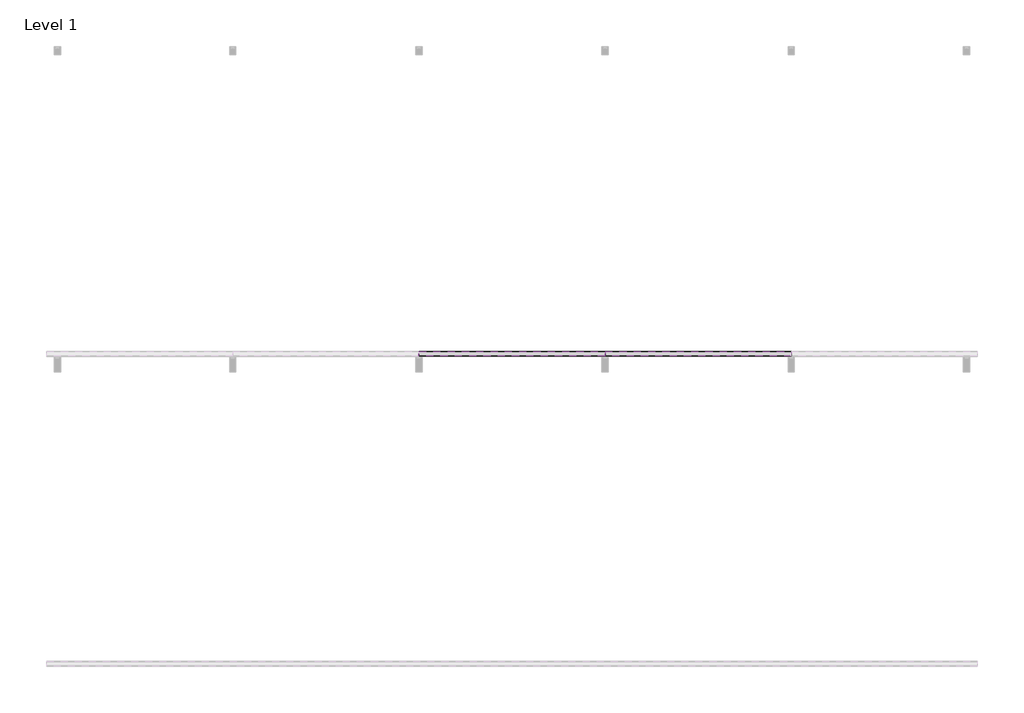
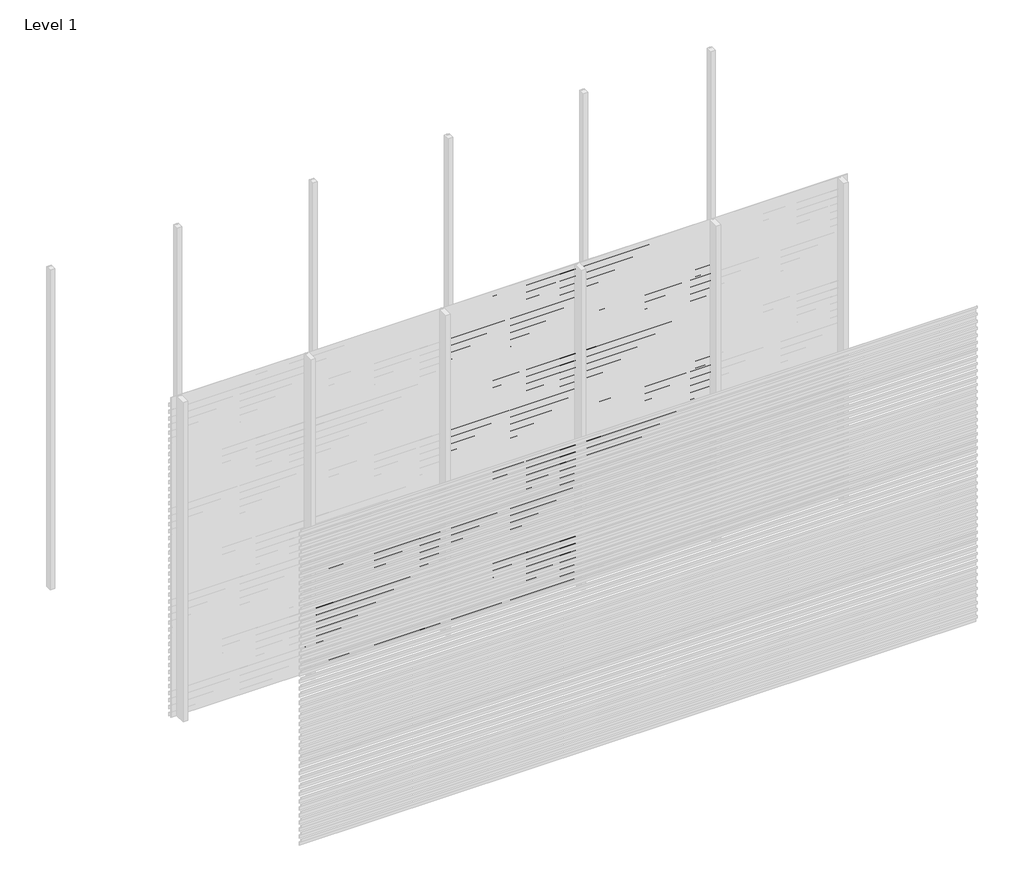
# One storey, part 14 of 33: 88 proxies.
"""IFC4 building model written with IfcOpenShell, lengths in millimetres."""

from ifc_helpers import new_model, si_unit, frame, origin, place, context, project, spatial, polyline, outline, extrude, element, save

model = new_model("IFC4")

# Units and contexts
model_context = context("Model", 3, world=origin())
ifc_project = project(units=[si_unit("LENGTHUNIT", "METRE", prefix="MILLI")], contexts=[model_context])

# Site, building, storey
site = spatial("IfcSite", under=ifc_project)
building = spatial("IfcBuilding", under=site)
storey = spatial("IfcBuildingStorey", under=building, Name="Level 1", Elevation=0.0)

# Proxies
placement = place(None, origin())
element("IfcBuildingElementProxy", 1, Name="Wall Sweeps", at=placement, inside=storey, context=model_context, shape_type="SweptSolid", body=[
    extrude(outline(polyline([(-35967.0, 950.0), (-35967.0, 917.0), (-35968.25, 917.7216933), (-35968.25, 949.2872415), (-35998.0, 970.0588647), (-35998.0, 990.0), (-35996.75, 990.0), (-35996.75, 970.7716232), (-35967.0, 950.0)])), frame((1200.0, 0.0, 0.0), z_axis=(1.0, 0.0, 0.0), x_axis=(0.0, 1.0, 0.0)), (0.0, 0.0, 1.0), 1200.0),
])
element("IfcBuildingElementProxy", 2, Name="Wall Sweeps", at=placement, inside=storey, context=model_context, shape_type="SweptSolid", body=[
    extrude(outline(polyline([(-35967.0, 884.0), (-35967.0, 851.0), (-35968.25, 851.7216933), (-35968.25, 883.2872415), (-35998.0, 904.0588647), (-35998.0, 924.0), (-35996.75, 924.0), (-35996.75, 904.7716232), (-35967.0, 884.0)])), frame((1200.0, 0.0, 0.0), z_axis=(1.0, 0.0, 0.0), x_axis=(0.0, 1.0, 0.0)), (0.0, 0.0, 1.0), 1200.0),
])
element("IfcBuildingElementProxy", 3, Name="Wall Sweeps", at=placement, inside=storey, context=model_context, shape_type="SweptSolid", body=[
    extrude(outline(polyline([(-35967.0, 818.0), (-35967.0, 785.0), (-35968.25, 785.7216933), (-35968.25, 817.2872415), (-35998.0, 838.0588647), (-35998.0, 858.0), (-35996.75, 858.0), (-35996.75, 838.7716232), (-35967.0, 818.0)])), frame((1200.0, 0.0, 0.0), z_axis=(1.0, 0.0, 0.0), x_axis=(0.0, 1.0, 0.0)), (0.0, 0.0, 1.0), 1200.0),
])
element("IfcBuildingElementProxy", 4, Name="Wall Sweeps", at=placement, inside=storey, context=model_context, shape_type="SweptSolid", body=[
    extrude(outline(polyline([(-35967.0, 752.0), (-35967.0, 719.0), (-35968.25, 719.7216933), (-35968.25, 751.2872415), (-35998.0, 772.0588647), (-35998.0, 792.0), (-35996.75, 792.0), (-35996.75, 772.7716232), (-35967.0, 752.0)])), frame((1200.0, 0.0, 0.0), z_axis=(1.0, 0.0, 0.0), x_axis=(0.0, 1.0, 0.0)), (0.0, 0.0, 1.0), 1200.0),
])
element("IfcBuildingElementProxy", 5, Name="Wall Sweeps", at=placement, inside=storey, context=model_context, shape_type="SweptSolid", body=[
    extrude(outline(polyline([(-35967.0, 686.0), (-35967.0, 653.0), (-35968.25, 653.7216933), (-35968.25, 685.2872415), (-35998.0, 706.0588647), (-35998.0, 726.0), (-35996.75, 726.0), (-35996.75, 706.7716232), (-35967.0, 686.0)])), frame((1200.0, 0.0, 0.0), z_axis=(1.0, 0.0, 0.0), x_axis=(0.0, 1.0, 0.0)), (0.0, 0.0, 1.0), 1200.0),
])
element("IfcBuildingElementProxy", 6, Name="Wall Sweeps", at=placement, inside=storey, context=model_context, shape_type="SweptSolid", body=[
    extrude(outline(polyline([(-35967.0, 620.0), (-35967.0, 587.0), (-35968.25, 587.7216933), (-35968.25, 619.2872415), (-35998.0, 640.0588647), (-35998.0, 660.0), (-35996.75, 660.0), (-35996.75, 640.7716232), (-35967.0, 620.0)])), frame((1200.0, 0.0, 0.0), z_axis=(1.0, 0.0, 0.0), x_axis=(0.0, 1.0, 0.0)), (0.0, 0.0, 1.0), 1200.0),
])
element("IfcBuildingElementProxy", 7, Name="Wall Sweeps", at=placement, inside=storey, context=model_context, shape_type="SweptSolid", body=[
    extrude(outline(polyline([(-35967.0, 554.0), (-35967.0, 521.0), (-35968.25, 521.7216933), (-35968.25, 553.2872415), (-35998.0, 574.0588647), (-35998.0, 594.0), (-35996.75, 594.0), (-35996.75, 574.7716232), (-35967.0, 554.0)])), frame((1200.0, 0.0, 0.0), z_axis=(1.0, 0.0, 0.0), x_axis=(0.0, 1.0, 0.0)), (0.0, 0.0, 1.0), 1200.0),
])
element("IfcBuildingElementProxy", 8, Name="Wall Sweeps", at=placement, inside=storey, context=model_context, shape_type="SweptSolid", body=[
    extrude(outline(polyline([(-35967.0, 488.0), (-35967.0, 455.0), (-35968.25, 455.7216933), (-35968.25, 487.2872415), (-35998.0, 508.0588647), (-35998.0, 528.0), (-35996.75, 528.0), (-35996.75, 508.7716232), (-35967.0, 488.0)])), frame((1200.0, 0.0, 0.0), z_axis=(1.0, 0.0, 0.0), x_axis=(0.0, 1.0, 0.0)), (0.0, 0.0, 1.0), 1200.0),
])
element("IfcBuildingElementProxy", 9, Name="Wall Sweeps", at=placement, inside=storey, context=model_context, shape_type="SweptSolid", body=[
    extrude(outline(polyline([(-35967.0, 422.0), (-35967.0, 389.0), (-35968.25, 389.7216933), (-35968.25, 421.2872415), (-35998.0, 442.0588647), (-35998.0, 462.0), (-35996.75, 462.0), (-35996.75, 442.7716232), (-35967.0, 422.0)])), frame((1200.0, 0.0, 0.0), z_axis=(1.0, 0.0, 0.0), x_axis=(0.0, 1.0, 0.0)), (0.0, 0.0, 1.0), 1200.0),
])
element("IfcBuildingElementProxy", 10, Name="Wall Sweeps", at=placement, inside=storey, context=model_context, shape_type="SweptSolid", body=[
    extrude(outline(polyline([(-35967.0, 356.0), (-35967.0, 323.0), (-35968.25, 323.7216933), (-35968.25, 355.2872415), (-35998.0, 376.0588647), (-35998.0, 396.0), (-35996.75, 396.0), (-35996.75, 376.7716232), (-35967.0, 356.0)])), frame((1200.0, 0.0, 0.0), z_axis=(1.0, 0.0, 0.0), x_axis=(0.0, 1.0, 0.0)), (0.0, 0.0, 1.0), 1200.0),
])
element("IfcBuildingElementProxy", 11, Name="Wall Sweeps", at=placement, inside=storey, context=model_context, shape_type="SweptSolid", body=[
    extrude(outline(polyline([(-35967.0, 290.0), (-35967.0, 257.0), (-35968.25, 257.7216933), (-35968.25, 289.2872415), (-35998.0, 310.0588647), (-35998.0, 330.0), (-35996.75, 330.0), (-35996.75, 310.7716232), (-35967.0, 290.0)])), frame((1200.0, 0.0, 0.0), z_axis=(1.0, 0.0, 0.0), x_axis=(0.0, 1.0, 0.0)), (0.0, 0.0, 1.0), 1200.0),
])
element("IfcBuildingElementProxy", 12, Name="Wall Sweeps", at=placement, inside=storey, context=model_context, shape_type="SweptSolid", body=[
    extrude(outline(polyline([(-35967.0, 224.0), (-35967.0, 191.0), (-35968.25, 191.7216933), (-35968.25, 223.2872415), (-35998.0, 244.0588647), (-35998.0, 264.0), (-35996.75, 264.0), (-35996.75, 244.7716232), (-35967.0, 224.0)])), frame((1200.0, 0.0, 0.0), z_axis=(1.0, 0.0, 0.0), x_axis=(0.0, 1.0, 0.0)), (0.0, 0.0, 1.0), 1200.0),
])
element("IfcBuildingElementProxy", 13, Name="Wall Sweeps", at=placement, inside=storey, context=model_context, shape_type="SweptSolid", body=[
    extrude(outline(polyline([(-35967.0, 158.0), (-35967.0, 125.0), (-35968.25, 125.7216933), (-35968.25, 157.2872415), (-35998.0, 178.0588647), (-35998.0, 198.0), (-35996.75, 198.0), (-35996.75, 178.7716232), (-35967.0, 158.0)])), frame((1200.0, 0.0, 0.0), z_axis=(1.0, 0.0, 0.0), x_axis=(0.0, 1.0, 0.0)), (0.0, 0.0, 1.0), 1200.0),
])
element("IfcBuildingElementProxy", 14, Name="Wall Sweeps", at=placement, inside=storey, context=model_context, shape_type="SweptSolid", body=[
    extrude(outline(polyline([(-35967.0, 92.0), (-35967.0, 59.0), (-35968.25, 59.7216933), (-35968.25, 91.2872415), (-35998.0, 112.0588647), (-35998.0, 132.0), (-35996.75, 132.0), (-35996.75, 112.7716232), (-35967.0, 92.0)])), frame((1200.0, 0.0, 0.0), z_axis=(1.0, 0.0, 0.0), x_axis=(0.0, 1.0, 0.0)), (0.0, 0.0, 1.0), 1200.0),
])
element("IfcBuildingElementProxy", 15, Name="Wall Sweeps", at=placement, inside=storey, context=model_context, shape_type="SweptSolid", body=[
    extrude(outline(polyline([(-35967.0, 26.0), (-35967.0, -7.0), (-35968.25, -6.2783067), (-35968.25, 25.2872415), (-35998.0, 46.0588647), (-35998.0, 66.0), (-35996.75, 66.0), (-35996.75, 46.7716232), (-35967.0, 26.0)])), frame((1200.0, 0.0, 0.0), z_axis=(1.0, 0.0, 0.0), x_axis=(0.0, 1.0, 0.0)), (0.0, 0.0, 1.0), 1200.0),
])
element("IfcBuildingElementProxy", 16, Name="Wall Sweeps", at=placement, inside=storey, context=model_context, shape_type="SweptSolid", body=[
    extrude(outline(polyline([(-35967.0, 2930.0), (-35967.0, 2897.0), (-35968.25, 2897.7216933), (-35968.25, 2929.2872415), (-35998.0, 2950.0588647), (-35998.0, 2970.0), (-35996.75, 2970.0), (-35996.75, 2950.7716232), (-35967.0, 2930.0)])), frame((2400.0, 0.0, 0.0), z_axis=(1.0, 0.0, 0.0), x_axis=(0.0, 1.0, 0.0)), (0.0, 0.0, 1.0), 1200.0),
])
element("IfcBuildingElementProxy", 17, Name="Wall Sweeps", at=placement, inside=storey, context=model_context, shape_type="SweptSolid", body=[
    extrude(outline(polyline([(-35967.0, 2864.0), (-35967.0, 2831.0), (-35968.25, 2831.7216933), (-35968.25, 2863.2872415), (-35998.0, 2884.0588647), (-35998.0, 2904.0), (-35996.75, 2904.0), (-35996.75, 2884.7716232), (-35967.0, 2864.0)])), frame((2400.0, 0.0, 0.0), z_axis=(1.0, 0.0, 0.0), x_axis=(0.0, 1.0, 0.0)), (0.0, 0.0, 1.0), 1200.0),
])
element("IfcBuildingElementProxy", 18, Name="Wall Sweeps", at=placement, inside=storey, context=model_context, shape_type="SweptSolid", body=[
    extrude(outline(polyline([(-35967.0, 2798.0), (-35967.0, 2765.0), (-35968.25, 2765.7216933), (-35968.25, 2797.2872415), (-35998.0, 2818.0588647), (-35998.0, 2838.0), (-35996.75, 2838.0), (-35996.75, 2818.7716232), (-35967.0, 2798.0)])), frame((2400.0, 0.0, 0.0), z_axis=(1.0, 0.0, 0.0), x_axis=(0.0, 1.0, 0.0)), (0.0, 0.0, 1.0), 1200.0),
])
element("IfcBuildingElementProxy", 19, Name="Wall Sweeps", at=placement, inside=storey, context=model_context, shape_type="SweptSolid", body=[
    extrude(outline(polyline([(-35967.0, 2732.0), (-35967.0, 2699.0), (-35968.25, 2699.7216933), (-35968.25, 2731.2872415), (-35998.0, 2752.0588647), (-35998.0, 2772.0), (-35996.75, 2772.0), (-35996.75, 2752.7716232), (-35967.0, 2732.0)])), frame((2400.0, 0.0, 0.0), z_axis=(1.0, 0.0, 0.0), x_axis=(0.0, 1.0, 0.0)), (0.0, 0.0, 1.0), 1200.0),
])
element("IfcBuildingElementProxy", 20, Name="Wall Sweeps", at=placement, inside=storey, context=model_context, shape_type="SweptSolid", body=[
    extrude(outline(polyline([(-35967.0, 2666.0), (-35967.0, 2633.0), (-35968.25, 2633.7216933), (-35968.25, 2665.2872415), (-35998.0, 2686.0588647), (-35998.0, 2706.0), (-35996.75, 2706.0), (-35996.75, 2686.7716232), (-35967.0, 2666.0)])), frame((2400.0, 0.0, 0.0), z_axis=(1.0, 0.0, 0.0), x_axis=(0.0, 1.0, 0.0)), (0.0, 0.0, 1.0), 1200.0),
])
element("IfcBuildingElementProxy", 21, Name="Wall Sweeps", at=placement, inside=storey, context=model_context, shape_type="SweptSolid", body=[
    extrude(outline(polyline([(-35967.0, 2600.0), (-35967.0, 2567.0), (-35968.25, 2567.7216933), (-35968.25, 2599.2872415), (-35998.0, 2620.0588647), (-35998.0, 2640.0), (-35996.75, 2640.0), (-35996.75, 2620.7716232), (-35967.0, 2600.0)])), frame((2400.0, 0.0, 0.0), z_axis=(1.0, 0.0, 0.0), x_axis=(0.0, 1.0, 0.0)), (0.0, 0.0, 1.0), 1200.0),
])
element("IfcBuildingElementProxy", 22, Name="Wall Sweeps", at=placement, inside=storey, context=model_context, shape_type="SweptSolid", body=[
    extrude(outline(polyline([(-35967.0, 2534.0), (-35967.0, 2501.0), (-35968.25, 2501.7216933), (-35968.25, 2533.2872415), (-35998.0, 2554.0588647), (-35998.0, 2574.0), (-35996.75, 2574.0), (-35996.75, 2554.7716232), (-35967.0, 2534.0)])), frame((2400.0, 0.0, 0.0), z_axis=(1.0, 0.0, 0.0), x_axis=(0.0, 1.0, 0.0)), (0.0, 0.0, 1.0), 1200.0),
])
element("IfcBuildingElementProxy", 23, Name="Wall Sweeps", at=placement, inside=storey, context=model_context, shape_type="SweptSolid", body=[
    extrude(outline(polyline([(-35967.0, 2468.0), (-35967.0, 2435.0), (-35968.25, 2435.7216933), (-35968.25, 2467.2872415), (-35998.0, 2488.0588647), (-35998.0, 2508.0), (-35996.75, 2508.0), (-35996.75, 2488.7716232), (-35967.0, 2468.0)])), frame((2400.0, 0.0, 0.0), z_axis=(1.0, 0.0, 0.0), x_axis=(0.0, 1.0, 0.0)), (0.0, 0.0, 1.0), 1200.0),
])
element("IfcBuildingElementProxy", 24, Name="Wall Sweeps", at=placement, inside=storey, context=model_context, shape_type="SweptSolid", body=[
    extrude(outline(polyline([(-35967.0, 2402.0), (-35967.0, 2369.0), (-35968.25, 2369.7216933), (-35968.25, 2401.2872415), (-35998.0, 2422.0588647), (-35998.0, 2442.0), (-35996.75, 2442.0), (-35996.75, 2422.7716232), (-35967.0, 2402.0)])), frame((2400.0, 0.0, 0.0), z_axis=(1.0, 0.0, 0.0), x_axis=(0.0, 1.0, 0.0)), (0.0, 0.0, 1.0), 1200.0),
])
element("IfcBuildingElementProxy", 25, Name="Wall Sweeps", at=placement, inside=storey, context=model_context, shape_type="SweptSolid", body=[
    extrude(outline(polyline([(-35967.0, 2336.0), (-35967.0, 2303.0), (-35968.25, 2303.7216933), (-35968.25, 2335.2872415), (-35998.0, 2356.0588647), (-35998.0, 2376.0), (-35996.75, 2376.0), (-35996.75, 2356.7716232), (-35967.0, 2336.0)])), frame((2400.0, 0.0, 0.0), z_axis=(1.0, 0.0, 0.0), x_axis=(0.0, 1.0, 0.0)), (0.0, 0.0, 1.0), 1200.0),
])
element("IfcBuildingElementProxy", 26, Name="Wall Sweeps", at=placement, inside=storey, context=model_context, shape_type="SweptSolid", body=[
    extrude(outline(polyline([(-35967.0, 2270.0), (-35967.0, 2237.0), (-35968.25, 2237.7216933), (-35968.25, 2269.2872415), (-35998.0, 2290.0588647), (-35998.0, 2310.0), (-35996.75, 2310.0), (-35996.75, 2290.7716232), (-35967.0, 2270.0)])), frame((2400.0, 0.0, 0.0), z_axis=(1.0, 0.0, 0.0), x_axis=(0.0, 1.0, 0.0)), (0.0, 0.0, 1.0), 1200.0),
])
element("IfcBuildingElementProxy", 27, Name="Wall Sweeps", at=placement, inside=storey, context=model_context, shape_type="SweptSolid", body=[
    extrude(outline(polyline([(-35967.0, 2204.0), (-35967.0, 2171.0), (-35968.25, 2171.7216933), (-35968.25, 2203.2872415), (-35998.0, 2224.0588647), (-35998.0, 2244.0), (-35996.75, 2244.0), (-35996.75, 2224.7716232), (-35967.0, 2204.0)])), frame((2400.0, 0.0, 0.0), z_axis=(1.0, 0.0, 0.0), x_axis=(0.0, 1.0, 0.0)), (0.0, 0.0, 1.0), 1200.0),
])
element("IfcBuildingElementProxy", 28, Name="Wall Sweeps", at=placement, inside=storey, context=model_context, shape_type="SweptSolid", body=[
    extrude(outline(polyline([(-35967.0, 2138.0), (-35967.0, 2105.0), (-35968.25, 2105.7216933), (-35968.25, 2137.2872415), (-35998.0, 2158.0588647), (-35998.0, 2178.0), (-35996.75, 2178.0), (-35996.75, 2158.7716232), (-35967.0, 2138.0)])), frame((2400.0, 0.0, 0.0), z_axis=(1.0, 0.0, 0.0), x_axis=(0.0, 1.0, 0.0)), (0.0, 0.0, 1.0), 1200.0),
])
element("IfcBuildingElementProxy", 29, Name="Wall Sweeps", at=placement, inside=storey, context=model_context, shape_type="SweptSolid", body=[
    extrude(outline(polyline([(-35967.0, 2072.0), (-35967.0, 2039.0), (-35968.25, 2039.7216933), (-35968.25, 2071.2872415), (-35998.0, 2092.0588647), (-35998.0, 2112.0), (-35996.75, 2112.0), (-35996.75, 2092.7716232), (-35967.0, 2072.0)])), frame((2400.0, 0.0, 0.0), z_axis=(1.0, 0.0, 0.0), x_axis=(0.0, 1.0, 0.0)), (0.0, 0.0, 1.0), 1200.0),
])
element("IfcBuildingElementProxy", 30, Name="Wall Sweeps", at=placement, inside=storey, context=model_context, shape_type="SweptSolid", body=[
    extrude(outline(polyline([(-35967.0, 2006.0), (-35967.0, 1973.0), (-35968.25, 1973.7216933), (-35968.25, 2005.2872415), (-35998.0, 2026.0588647), (-35998.0, 2046.0), (-35996.75, 2046.0), (-35996.75, 2026.7716232), (-35967.0, 2006.0)])), frame((2400.0, 0.0, 0.0), z_axis=(1.0, 0.0, 0.0), x_axis=(0.0, 1.0, 0.0)), (0.0, 0.0, 1.0), 1200.0),
])
element("IfcBuildingElementProxy", 31, Name="Wall Sweeps", at=placement, inside=storey, context=model_context, shape_type="SweptSolid", body=[
    extrude(outline(polyline([(-35967.0, 1940.0), (-35967.0, 1907.0), (-35968.25, 1907.7216933), (-35968.25, 1939.2872415), (-35998.0, 1960.0588647), (-35998.0, 1980.0), (-35996.75, 1980.0), (-35996.75, 1960.7716232), (-35967.0, 1940.0)])), frame((2400.0, 0.0, 0.0), z_axis=(1.0, 0.0, 0.0), x_axis=(0.0, 1.0, 0.0)), (0.0, 0.0, 1.0), 1200.0),
])
element("IfcBuildingElementProxy", 32, Name="Wall Sweeps", at=placement, inside=storey, context=model_context, shape_type="SweptSolid", body=[
    extrude(outline(polyline([(-35967.0, 1874.0), (-35967.0, 1841.0), (-35968.25, 1841.7216933), (-35968.25, 1873.2872415), (-35998.0, 1894.0588647), (-35998.0, 1914.0), (-35996.75, 1914.0), (-35996.75, 1894.7716232), (-35967.0, 1874.0)])), frame((2400.0, 0.0, 0.0), z_axis=(1.0, 0.0, 0.0), x_axis=(0.0, 1.0, 0.0)), (0.0, 0.0, 1.0), 1200.0),
])
element("IfcBuildingElementProxy", 33, Name="Wall Sweeps", at=placement, inside=storey, context=model_context, shape_type="SweptSolid", body=[
    extrude(outline(polyline([(-35967.0, 1808.0), (-35967.0, 1775.0), (-35968.25, 1775.7216933), (-35968.25, 1807.2872415), (-35998.0, 1828.0588647), (-35998.0, 1848.0), (-35996.75, 1848.0), (-35996.75, 1828.7716232), (-35967.0, 1808.0)])), frame((2400.0, 0.0, 0.0), z_axis=(1.0, 0.0, 0.0), x_axis=(0.0, 1.0, 0.0)), (0.0, 0.0, 1.0), 1200.0),
])
element("IfcBuildingElementProxy", 34, Name="Wall Sweeps", at=placement, inside=storey, context=model_context, shape_type="SweptSolid", body=[
    extrude(outline(polyline([(-35967.0, 1742.0), (-35967.0, 1709.0), (-35968.25, 1709.7216933), (-35968.25, 1741.2872415), (-35998.0, 1762.0588647), (-35998.0, 1782.0), (-35996.75, 1782.0), (-35996.75, 1762.7716232), (-35967.0, 1742.0)])), frame((2400.0, 0.0, 0.0), z_axis=(1.0, 0.0, 0.0), x_axis=(0.0, 1.0, 0.0)), (0.0, 0.0, 1.0), 1200.0),
])
element("IfcBuildingElementProxy", 35, Name="Wall Sweeps", at=placement, inside=storey, context=model_context, shape_type="SweptSolid", body=[
    extrude(outline(polyline([(-35967.0, 1676.0), (-35967.0, 1643.0), (-35968.25, 1643.7216933), (-35968.25, 1675.2872415), (-35998.0, 1696.0588647), (-35998.0, 1716.0), (-35996.75, 1716.0), (-35996.75, 1696.7716232), (-35967.0, 1676.0)])), frame((2400.0, 0.0, 0.0), z_axis=(1.0, 0.0, 0.0), x_axis=(0.0, 1.0, 0.0)), (0.0, 0.0, 1.0), 1200.0),
])
element("IfcBuildingElementProxy", 36, Name="Wall Sweeps", at=placement, inside=storey, context=model_context, shape_type="SweptSolid", body=[
    extrude(outline(polyline([(-35967.0, 1610.0), (-35967.0, 1577.0), (-35968.25, 1577.7216933), (-35968.25, 1609.2872415), (-35998.0, 1630.0588647), (-35998.0, 1650.0), (-35996.75, 1650.0), (-35996.75, 1630.7716232), (-35967.0, 1610.0)])), frame((2400.0, 0.0, 0.0), z_axis=(1.0, 0.0, 0.0), x_axis=(0.0, 1.0, 0.0)), (0.0, 0.0, 1.0), 1200.0),
])
element("IfcBuildingElementProxy", 37, Name="Wall Sweeps", at=placement, inside=storey, context=model_context, shape_type="SweptSolid", body=[
    extrude(outline(polyline([(-35967.0, 1544.0), (-35967.0, 1511.0), (-35968.25, 1511.7216933), (-35968.25, 1543.2872415), (-35998.0, 1564.0588647), (-35998.0, 1584.0), (-35996.75, 1584.0), (-35996.75, 1564.7716232), (-35967.0, 1544.0)])), frame((2400.0, 0.0, 0.0), z_axis=(1.0, 0.0, 0.0), x_axis=(0.0, 1.0, 0.0)), (0.0, 0.0, 1.0), 1200.0),
])
element("IfcBuildingElementProxy", 38, Name="Wall Sweeps", at=placement, inside=storey, context=model_context, shape_type="SweptSolid", body=[
    extrude(outline(polyline([(-35967.0, 1478.0), (-35967.0, 1445.0), (-35968.25, 1445.7216933), (-35968.25, 1477.2872415), (-35998.0, 1498.0588647), (-35998.0, 1518.0), (-35996.75, 1518.0), (-35996.75, 1498.7716232), (-35967.0, 1478.0)])), frame((2400.0, 0.0, 0.0), z_axis=(1.0, 0.0, 0.0), x_axis=(0.0, 1.0, 0.0)), (0.0, 0.0, 1.0), 1200.0),
])
element("IfcBuildingElementProxy", 39, Name="Wall Sweeps", at=placement, inside=storey, context=model_context, shape_type="SweptSolid", body=[
    extrude(outline(polyline([(-35967.0, 1412.0), (-35967.0, 1379.0), (-35968.25, 1379.7216933), (-35968.25, 1411.2872415), (-35998.0, 1432.0588647), (-35998.0, 1452.0), (-35996.75, 1452.0), (-35996.75, 1432.7716232), (-35967.0, 1412.0)])), frame((2400.0, 0.0, 0.0), z_axis=(1.0, 0.0, 0.0), x_axis=(0.0, 1.0, 0.0)), (0.0, 0.0, 1.0), 1200.0),
])
element("IfcBuildingElementProxy", 40, Name="Wall Sweeps", at=placement, inside=storey, context=model_context, shape_type="SweptSolid", body=[
    extrude(outline(polyline([(-35967.0, 1346.0), (-35967.0, 1313.0), (-35968.25, 1313.7216933), (-35968.25, 1345.2872415), (-35998.0, 1366.0588647), (-35998.0, 1386.0), (-35996.75, 1386.0), (-35996.75, 1366.7716232), (-35967.0, 1346.0)])), frame((2400.0, 0.0, 0.0), z_axis=(1.0, 0.0, 0.0), x_axis=(0.0, 1.0, 0.0)), (0.0, 0.0, 1.0), 1200.0),
])
element("IfcBuildingElementProxy", 41, Name="Wall Sweeps", at=placement, inside=storey, context=model_context, shape_type="SweptSolid", body=[
    extrude(outline(polyline([(-35967.0, 1280.0), (-35967.0, 1247.0), (-35968.25, 1247.7216933), (-35968.25, 1279.2872415), (-35998.0, 1300.0588647), (-35998.0, 1320.0), (-35996.75, 1320.0), (-35996.75, 1300.7716232), (-35967.0, 1280.0)])), frame((2400.0, 0.0, 0.0), z_axis=(1.0, 0.0, 0.0), x_axis=(0.0, 1.0, 0.0)), (0.0, 0.0, 1.0), 1200.0),
])
element("IfcBuildingElementProxy", 42, Name="Wall Sweeps", at=placement, inside=storey, context=model_context, shape_type="SweptSolid", body=[
    extrude(outline(polyline([(-35967.0, 1214.0), (-35967.0, 1181.0), (-35968.25, 1181.7216933), (-35968.25, 1213.2872415), (-35998.0, 1234.0588647), (-35998.0, 1254.0), (-35996.75, 1254.0), (-35996.75, 1234.7716232), (-35967.0, 1214.0)])), frame((2400.0, 0.0, 0.0), z_axis=(1.0, 0.0, 0.0), x_axis=(0.0, 1.0, 0.0)), (0.0, 0.0, 1.0), 1200.0),
])
element("IfcBuildingElementProxy", 43, Name="Wall Sweeps", at=placement, inside=storey, context=model_context, shape_type="SweptSolid", body=[
    extrude(outline(polyline([(-35967.0, 1148.0), (-35967.0, 1115.0), (-35968.25, 1115.7216933), (-35968.25, 1147.2872415), (-35998.0, 1168.0588647), (-35998.0, 1188.0), (-35996.75, 1188.0), (-35996.75, 1168.7716232), (-35967.0, 1148.0)])), frame((2400.0, 0.0, 0.0), z_axis=(1.0, 0.0, 0.0), x_axis=(0.0, 1.0, 0.0)), (0.0, 0.0, 1.0), 1200.0),
])
element("IfcBuildingElementProxy", 44, Name="Wall Sweeps", at=placement, inside=storey, context=model_context, shape_type="SweptSolid", body=[
    extrude(outline(polyline([(-35967.0, 1082.0), (-35967.0, 1049.0), (-35968.25, 1049.7216933), (-35968.25, 1081.2872415), (-35998.0, 1102.0588647), (-35998.0, 1122.0), (-35996.75, 1122.0), (-35996.75, 1102.7716232), (-35967.0, 1082.0)])), frame((2400.0, 0.0, 0.0), z_axis=(1.0, 0.0, 0.0), x_axis=(0.0, 1.0, 0.0)), (0.0, 0.0, 1.0), 1200.0),
])
element("IfcBuildingElementProxy", 45, Name="Wall Sweeps", at=placement, inside=storey, context=model_context, shape_type="SweptSolid", body=[
    extrude(outline(polyline([(-35967.0, 1016.0), (-35967.0, 983.0), (-35968.25, 983.7216933), (-35968.25, 1015.2872415), (-35998.0, 1036.0588647), (-35998.0, 1056.0), (-35996.75, 1056.0), (-35996.75, 1036.7716232), (-35967.0, 1016.0)])), frame((2400.0, 0.0, 0.0), z_axis=(1.0, 0.0, 0.0), x_axis=(0.0, 1.0, 0.0)), (0.0, 0.0, 1.0), 1200.0),
])
element("IfcBuildingElementProxy", 46, Name="Wall Sweeps", at=placement, inside=storey, context=model_context, shape_type="SweptSolid", body=[
    extrude(outline(polyline([(-35967.0, 950.0), (-35967.0, 917.0), (-35968.25, 917.7216933), (-35968.25, 949.2872415), (-35998.0, 970.0588647), (-35998.0, 990.0), (-35996.75, 990.0), (-35996.75, 970.7716232), (-35967.0, 950.0)])), frame((2400.0, 0.0, 0.0), z_axis=(1.0, 0.0, 0.0), x_axis=(0.0, 1.0, 0.0)), (0.0, 0.0, 1.0), 1200.0),
])
element("IfcBuildingElementProxy", 47, Name="Wall Sweeps", at=placement, inside=storey, context=model_context, shape_type="SweptSolid", body=[
    extrude(outline(polyline([(-35967.0, 884.0), (-35967.0, 851.0), (-35968.25, 851.7216933), (-35968.25, 883.2872415), (-35998.0, 904.0588647), (-35998.0, 924.0), (-35996.75, 924.0), (-35996.75, 904.7716232), (-35967.0, 884.0)])), frame((2400.0, 0.0, 0.0), z_axis=(1.0, 0.0, 0.0), x_axis=(0.0, 1.0, 0.0)), (0.0, 0.0, 1.0), 1200.0),
])
element("IfcBuildingElementProxy", 48, Name="Wall Sweeps", at=placement, inside=storey, context=model_context, shape_type="SweptSolid", body=[
    extrude(outline(polyline([(-35967.0, 818.0), (-35967.0, 785.0), (-35968.25, 785.7216933), (-35968.25, 817.2872415), (-35998.0, 838.0588647), (-35998.0, 858.0), (-35996.75, 858.0), (-35996.75, 838.7716232), (-35967.0, 818.0)])), frame((2400.0, 0.0, 0.0), z_axis=(1.0, 0.0, 0.0), x_axis=(0.0, 1.0, 0.0)), (0.0, 0.0, 1.0), 1200.0),
])
element("IfcBuildingElementProxy", 49, Name="Wall Sweeps", at=placement, inside=storey, context=model_context, shape_type="SweptSolid", body=[
    extrude(outline(polyline([(-35967.0, 752.0), (-35967.0, 719.0), (-35968.25, 719.7216933), (-35968.25, 751.2872415), (-35998.0, 772.0588647), (-35998.0, 792.0), (-35996.75, 792.0), (-35996.75, 772.7716232), (-35967.0, 752.0)])), frame((2400.0, 0.0, 0.0), z_axis=(1.0, 0.0, 0.0), x_axis=(0.0, 1.0, 0.0)), (0.0, 0.0, 1.0), 1200.0),
])
element("IfcBuildingElementProxy", 50, Name="Wall Sweeps", at=placement, inside=storey, context=model_context, shape_type="SweptSolid", body=[
    extrude(outline(polyline([(-35967.0, 686.0), (-35967.0, 653.0), (-35968.25, 653.7216933), (-35968.25, 685.2872415), (-35998.0, 706.0588647), (-35998.0, 726.0), (-35996.75, 726.0), (-35996.75, 706.7716232), (-35967.0, 686.0)])), frame((2400.0, 0.0, 0.0), z_axis=(1.0, 0.0, 0.0), x_axis=(0.0, 1.0, 0.0)), (0.0, 0.0, 1.0), 1200.0),
])
element("IfcBuildingElementProxy", 51, Name="Wall Sweeps", at=placement, inside=storey, context=model_context, shape_type="SweptSolid", body=[
    extrude(outline(polyline([(-35967.0, 620.0), (-35967.0, 587.0), (-35968.25, 587.7216933), (-35968.25, 619.2872415), (-35998.0, 640.0588647), (-35998.0, 660.0), (-35996.75, 660.0), (-35996.75, 640.7716232), (-35967.0, 620.0)])), frame((2400.0, 0.0, 0.0), z_axis=(1.0, 0.0, 0.0), x_axis=(0.0, 1.0, 0.0)), (0.0, 0.0, 1.0), 1200.0),
])
element("IfcBuildingElementProxy", 52, Name="Wall Sweeps", at=placement, inside=storey, context=model_context, shape_type="SweptSolid", body=[
    extrude(outline(polyline([(-35967.0, 554.0), (-35967.0, 521.0), (-35968.25, 521.7216933), (-35968.25, 553.2872415), (-35998.0, 574.0588647), (-35998.0, 594.0), (-35996.75, 594.0), (-35996.75, 574.7716232), (-35967.0, 554.0)])), frame((2400.0, 0.0, 0.0), z_axis=(1.0, 0.0, 0.0), x_axis=(0.0, 1.0, 0.0)), (0.0, 0.0, 1.0), 1200.0),
])
element("IfcBuildingElementProxy", 53, Name="Wall Sweeps", at=placement, inside=storey, context=model_context, shape_type="SweptSolid", body=[
    extrude(outline(polyline([(-35967.0, 488.0), (-35967.0, 455.0), (-35968.25, 455.7216933), (-35968.25, 487.2872415), (-35998.0, 508.0588647), (-35998.0, 528.0), (-35996.75, 528.0), (-35996.75, 508.7716232), (-35967.0, 488.0)])), frame((2400.0, 0.0, 0.0), z_axis=(1.0, 0.0, 0.0), x_axis=(0.0, 1.0, 0.0)), (0.0, 0.0, 1.0), 1200.0),
])
element("IfcBuildingElementProxy", 54, Name="Wall Sweeps", at=placement, inside=storey, context=model_context, shape_type="SweptSolid", body=[
    extrude(outline(polyline([(-35967.0, 422.0), (-35967.0, 389.0), (-35968.25, 389.7216933), (-35968.25, 421.2872415), (-35998.0, 442.0588647), (-35998.0, 462.0), (-35996.75, 462.0), (-35996.75, 442.7716232), (-35967.0, 422.0)])), frame((2400.0, 0.0, 0.0), z_axis=(1.0, 0.0, 0.0), x_axis=(0.0, 1.0, 0.0)), (0.0, 0.0, 1.0), 1200.0),
])
element("IfcBuildingElementProxy", 55, Name="Wall Sweeps", at=placement, inside=storey, context=model_context, shape_type="SweptSolid", body=[
    extrude(outline(polyline([(-35967.0, 356.0), (-35967.0, 323.0), (-35968.25, 323.7216933), (-35968.25, 355.2872415), (-35998.0, 376.0588647), (-35998.0, 396.0), (-35996.75, 396.0), (-35996.75, 376.7716232), (-35967.0, 356.0)])), frame((2400.0, 0.0, 0.0), z_axis=(1.0, 0.0, 0.0), x_axis=(0.0, 1.0, 0.0)), (0.0, 0.0, 1.0), 1200.0),
])
element("IfcBuildingElementProxy", 56, Name="Wall Sweeps", at=placement, inside=storey, context=model_context, shape_type="SweptSolid", body=[
    extrude(outline(polyline([(-35967.0, 290.0), (-35967.0, 257.0), (-35968.25, 257.7216933), (-35968.25, 289.2872415), (-35998.0, 310.0588647), (-35998.0, 330.0), (-35996.75, 330.0), (-35996.75, 310.7716232), (-35967.0, 290.0)])), frame((2400.0, 0.0, 0.0), z_axis=(1.0, 0.0, 0.0), x_axis=(0.0, 1.0, 0.0)), (0.0, 0.0, 1.0), 1200.0),
])
element("IfcBuildingElementProxy", 57, Name="Wall Sweeps", at=placement, inside=storey, context=model_context, shape_type="SweptSolid", body=[
    extrude(outline(polyline([(-35967.0, 224.0), (-35967.0, 191.0), (-35968.25, 191.7216933), (-35968.25, 223.2872415), (-35998.0, 244.0588647), (-35998.0, 264.0), (-35996.75, 264.0), (-35996.75, 244.7716232), (-35967.0, 224.0)])), frame((2400.0, 0.0, 0.0), z_axis=(1.0, 0.0, 0.0), x_axis=(0.0, 1.0, 0.0)), (0.0, 0.0, 1.0), 1200.0),
])
element("IfcBuildingElementProxy", 58, Name="Wall Sweeps", at=placement, inside=storey, context=model_context, shape_type="SweptSolid", body=[
    extrude(outline(polyline([(-35967.0, 158.0), (-35967.0, 125.0), (-35968.25, 125.7216933), (-35968.25, 157.2872415), (-35998.0, 178.0588647), (-35998.0, 198.0), (-35996.75, 198.0), (-35996.75, 178.7716232), (-35967.0, 158.0)])), frame((2400.0, 0.0, 0.0), z_axis=(1.0, 0.0, 0.0), x_axis=(0.0, 1.0, 0.0)), (0.0, 0.0, 1.0), 1200.0),
])
element("IfcBuildingElementProxy", 59, Name="Wall Sweeps", at=placement, inside=storey, context=model_context, shape_type="SweptSolid", body=[
    extrude(outline(polyline([(-35967.0, 92.0), (-35967.0, 59.0), (-35968.25, 59.7216933), (-35968.25, 91.2872415), (-35998.0, 112.0588647), (-35998.0, 132.0), (-35996.75, 132.0), (-35996.75, 112.7716232), (-35967.0, 92.0)])), frame((2400.0, 0.0, 0.0), z_axis=(1.0, 0.0, 0.0), x_axis=(0.0, 1.0, 0.0)), (0.0, 0.0, 1.0), 1200.0),
])
element("IfcBuildingElementProxy", 60, Name="Wall Sweeps", at=placement, inside=storey, context=model_context, shape_type="SweptSolid", body=[
    extrude(outline(polyline([(-35967.0, 26.0), (-35967.0, -7.0), (-35968.25, -6.2783067), (-35968.25, 25.2872415), (-35998.0, 46.0588647), (-35998.0, 66.0), (-35996.75, 66.0), (-35996.75, 46.7716232), (-35967.0, 26.0)])), frame((2400.0, 0.0, 0.0), z_axis=(1.0, 0.0, 0.0), x_axis=(0.0, 1.0, 0.0)), (0.0, 0.0, 1.0), 1200.0),
])
element("IfcBuildingElementProxy", 61, Name="Wall Sweeps", at=placement, inside=storey, context=model_context, shape_type="SweptSolid", body=[
    extrude(outline(polyline([(-35967.0, 2930.0), (-35967.0, 2897.0), (-35968.25, 2897.7216933), (-35968.25, 2929.2872415), (-35998.0, 2950.0588647), (-35998.0, 2970.0), (-35996.75, 2970.0), (-35996.75, 2950.7716232), (-35967.0, 2930.0)])), frame((3600.0, 0.0, 0.0), z_axis=(1.0, 0.0, 0.0), x_axis=(0.0, 1.0, 0.0)), (0.0, 0.0, 1.0), 1200.0),
])
element("IfcBuildingElementProxy", 62, Name="Wall Sweeps", at=placement, inside=storey, context=model_context, shape_type="SweptSolid", body=[
    extrude(outline(polyline([(-35967.0, 2864.0), (-35967.0, 2831.0), (-35968.25, 2831.7216933), (-35968.25, 2863.2872415), (-35998.0, 2884.0588647), (-35998.0, 2904.0), (-35996.75, 2904.0), (-35996.75, 2884.7716232), (-35967.0, 2864.0)])), frame((3600.0, 0.0, 0.0), z_axis=(1.0, 0.0, 0.0), x_axis=(0.0, 1.0, 0.0)), (0.0, 0.0, 1.0), 1200.0),
])
element("IfcBuildingElementProxy", 63, Name="Wall Sweeps", at=placement, inside=storey, context=model_context, shape_type="SweptSolid", body=[
    extrude(outline(polyline([(-35967.0, 2798.0), (-35967.0, 2765.0), (-35968.25, 2765.7216933), (-35968.25, 2797.2872415), (-35998.0, 2818.0588647), (-35998.0, 2838.0), (-35996.75, 2838.0), (-35996.75, 2818.7716232), (-35967.0, 2798.0)])), frame((3600.0, 0.0, 0.0), z_axis=(1.0, 0.0, 0.0), x_axis=(0.0, 1.0, 0.0)), (0.0, 0.0, 1.0), 1200.0),
])
element("IfcBuildingElementProxy", 64, Name="Wall Sweeps", at=placement, inside=storey, context=model_context, shape_type="SweptSolid", body=[
    extrude(outline(polyline([(-35967.0, 2732.0), (-35967.0, 2699.0), (-35968.25, 2699.7216933), (-35968.25, 2731.2872415), (-35998.0, 2752.0588647), (-35998.0, 2772.0), (-35996.75, 2772.0), (-35996.75, 2752.7716232), (-35967.0, 2732.0)])), frame((3600.0, 0.0, 0.0), z_axis=(1.0, 0.0, 0.0), x_axis=(0.0, 1.0, 0.0)), (0.0, 0.0, 1.0), 1200.0),
])
element("IfcBuildingElementProxy", 65, Name="Wall Sweeps", at=placement, inside=storey, context=model_context, shape_type="SweptSolid", body=[
    extrude(outline(polyline([(-35967.0, 2666.0), (-35967.0, 2633.0), (-35968.25, 2633.7216933), (-35968.25, 2665.2872415), (-35998.0, 2686.0588647), (-35998.0, 2706.0), (-35996.75, 2706.0), (-35996.75, 2686.7716232), (-35967.0, 2666.0)])), frame((3600.0, 0.0, 0.0), z_axis=(1.0, 0.0, 0.0), x_axis=(0.0, 1.0, 0.0)), (0.0, 0.0, 1.0), 1200.0),
])
element("IfcBuildingElementProxy", 66, Name="Wall Sweeps", at=placement, inside=storey, context=model_context, shape_type="SweptSolid", body=[
    extrude(outline(polyline([(-35967.0, 2600.0), (-35967.0, 2567.0), (-35968.25, 2567.7216933), (-35968.25, 2599.2872415), (-35998.0, 2620.0588647), (-35998.0, 2640.0), (-35996.75, 2640.0), (-35996.75, 2620.7716232), (-35967.0, 2600.0)])), frame((3600.0, 0.0, 0.0), z_axis=(1.0, 0.0, 0.0), x_axis=(0.0, 1.0, 0.0)), (0.0, 0.0, 1.0), 1200.0),
])
element("IfcBuildingElementProxy", 67, Name="Wall Sweeps", at=placement, inside=storey, context=model_context, shape_type="SweptSolid", body=[
    extrude(outline(polyline([(-35967.0, 2534.0), (-35967.0, 2501.0), (-35968.25, 2501.7216933), (-35968.25, 2533.2872415), (-35998.0, 2554.0588647), (-35998.0, 2574.0), (-35996.75, 2574.0), (-35996.75, 2554.7716232), (-35967.0, 2534.0)])), frame((3600.0, 0.0, 0.0), z_axis=(1.0, 0.0, 0.0), x_axis=(0.0, 1.0, 0.0)), (0.0, 0.0, 1.0), 1200.0),
])
element("IfcBuildingElementProxy", 68, Name="Wall Sweeps", at=placement, inside=storey, context=model_context, shape_type="SweptSolid", body=[
    extrude(outline(polyline([(-35967.0, 2468.0), (-35967.0, 2435.0), (-35968.25, 2435.7216933), (-35968.25, 2467.2872415), (-35998.0, 2488.0588647), (-35998.0, 2508.0), (-35996.75, 2508.0), (-35996.75, 2488.7716232), (-35967.0, 2468.0)])), frame((3600.0, 0.0, 0.0), z_axis=(1.0, 0.0, 0.0), x_axis=(0.0, 1.0, 0.0)), (0.0, 0.0, 1.0), 1200.0),
])
element("IfcBuildingElementProxy", 69, Name="Wall Sweeps", at=placement, inside=storey, context=model_context, shape_type="SweptSolid", body=[
    extrude(outline(polyline([(-35967.0, 2402.0), (-35967.0, 2369.0), (-35968.25, 2369.7216933), (-35968.25, 2401.2872415), (-35998.0, 2422.0588647), (-35998.0, 2442.0), (-35996.75, 2442.0), (-35996.75, 2422.7716232), (-35967.0, 2402.0)])), frame((3600.0, 0.0, 0.0), z_axis=(1.0, 0.0, 0.0), x_axis=(0.0, 1.0, 0.0)), (0.0, 0.0, 1.0), 1200.0),
])
element("IfcBuildingElementProxy", 70, Name="Wall Sweeps", at=placement, inside=storey, context=model_context, shape_type="SweptSolid", body=[
    extrude(outline(polyline([(-35967.0, 2336.0), (-35967.0, 2303.0), (-35968.25, 2303.7216933), (-35968.25, 2335.2872415), (-35998.0, 2356.0588647), (-35998.0, 2376.0), (-35996.75, 2376.0), (-35996.75, 2356.7716232), (-35967.0, 2336.0)])), frame((3600.0, 0.0, 0.0), z_axis=(1.0, 0.0, 0.0), x_axis=(0.0, 1.0, 0.0)), (0.0, 0.0, 1.0), 1200.0),
])
element("IfcBuildingElementProxy", 71, Name="Wall Sweeps", at=placement, inside=storey, context=model_context, shape_type="SweptSolid", body=[
    extrude(outline(polyline([(-35967.0, 2270.0), (-35967.0, 2237.0), (-35968.25, 2237.7216933), (-35968.25, 2269.2872415), (-35998.0, 2290.0588647), (-35998.0, 2310.0), (-35996.75, 2310.0), (-35996.75, 2290.7716232), (-35967.0, 2270.0)])), frame((3600.0, 0.0, 0.0), z_axis=(1.0, 0.0, 0.0), x_axis=(0.0, 1.0, 0.0)), (0.0, 0.0, 1.0), 1200.0),
])
element("IfcBuildingElementProxy", 72, Name="Wall Sweeps", at=placement, inside=storey, context=model_context, shape_type="SweptSolid", body=[
    extrude(outline(polyline([(-35967.0, 2204.0), (-35967.0, 2171.0), (-35968.25, 2171.7216933), (-35968.25, 2203.2872415), (-35998.0, 2224.0588647), (-35998.0, 2244.0), (-35996.75, 2244.0), (-35996.75, 2224.7716232), (-35967.0, 2204.0)])), frame((3600.0, 0.0, 0.0), z_axis=(1.0, 0.0, 0.0), x_axis=(0.0, 1.0, 0.0)), (0.0, 0.0, 1.0), 1200.0),
])
element("IfcBuildingElementProxy", 73, Name="Wall Sweeps", at=placement, inside=storey, context=model_context, shape_type="SweptSolid", body=[
    extrude(outline(polyline([(-35967.0, 2138.0), (-35967.0, 2105.0), (-35968.25, 2105.7216933), (-35968.25, 2137.2872415), (-35998.0, 2158.0588647), (-35998.0, 2178.0), (-35996.75, 2178.0), (-35996.75, 2158.7716232), (-35967.0, 2138.0)])), frame((3600.0, 0.0, 0.0), z_axis=(1.0, 0.0, 0.0), x_axis=(0.0, 1.0, 0.0)), (0.0, 0.0, 1.0), 1200.0),
])
element("IfcBuildingElementProxy", 74, Name="Wall Sweeps", at=placement, inside=storey, context=model_context, shape_type="SweptSolid", body=[
    extrude(outline(polyline([(-35967.0, 2072.0), (-35967.0, 2039.0), (-35968.25, 2039.7216933), (-35968.25, 2071.2872415), (-35998.0, 2092.0588647), (-35998.0, 2112.0), (-35996.75, 2112.0), (-35996.75, 2092.7716232), (-35967.0, 2072.0)])), frame((3600.0, 0.0, 0.0), z_axis=(1.0, 0.0, 0.0), x_axis=(0.0, 1.0, 0.0)), (0.0, 0.0, 1.0), 1200.0),
])
element("IfcBuildingElementProxy", 75, Name="Wall Sweeps", at=placement, inside=storey, context=model_context, shape_type="SweptSolid", body=[
    extrude(outline(polyline([(-35967.0, 2006.0), (-35967.0, 1973.0), (-35968.25, 1973.7216933), (-35968.25, 2005.2872415), (-35998.0, 2026.0588647), (-35998.0, 2046.0), (-35996.75, 2046.0), (-35996.75, 2026.7716232), (-35967.0, 2006.0)])), frame((3600.0, 0.0, 0.0), z_axis=(1.0, 0.0, 0.0), x_axis=(0.0, 1.0, 0.0)), (0.0, 0.0, 1.0), 1200.0),
])
element("IfcBuildingElementProxy", 76, Name="Wall Sweeps", at=placement, inside=storey, context=model_context, shape_type="SweptSolid", body=[
    extrude(outline(polyline([(-35967.0, 1940.0), (-35967.0, 1907.0), (-35968.25, 1907.7216933), (-35968.25, 1939.2872415), (-35998.0, 1960.0588647), (-35998.0, 1980.0), (-35996.75, 1980.0), (-35996.75, 1960.7716232), (-35967.0, 1940.0)])), frame((3600.0, 0.0, 0.0), z_axis=(1.0, 0.0, 0.0), x_axis=(0.0, 1.0, 0.0)), (0.0, 0.0, 1.0), 1200.0),
])
element("IfcBuildingElementProxy", 77, Name="Wall Sweeps", at=placement, inside=storey, context=model_context, shape_type="SweptSolid", body=[
    extrude(outline(polyline([(-35967.0, 1874.0), (-35967.0, 1841.0), (-35968.25, 1841.7216933), (-35968.25, 1873.2872415), (-35998.0, 1894.0588647), (-35998.0, 1914.0), (-35996.75, 1914.0), (-35996.75, 1894.7716232), (-35967.0, 1874.0)])), frame((3600.0, 0.0, 0.0), z_axis=(1.0, 0.0, 0.0), x_axis=(0.0, 1.0, 0.0)), (0.0, 0.0, 1.0), 1200.0),
])
element("IfcBuildingElementProxy", 78, Name="Wall Sweeps", at=placement, inside=storey, context=model_context, shape_type="SweptSolid", body=[
    extrude(outline(polyline([(-35967.0, 1808.0), (-35967.0, 1775.0), (-35968.25, 1775.7216933), (-35968.25, 1807.2872415), (-35998.0, 1828.0588647), (-35998.0, 1848.0), (-35996.75, 1848.0), (-35996.75, 1828.7716232), (-35967.0, 1808.0)])), frame((3600.0, 0.0, 0.0), z_axis=(1.0, 0.0, 0.0), x_axis=(0.0, 1.0, 0.0)), (0.0, 0.0, 1.0), 1200.0),
])
element("IfcBuildingElementProxy", 79, Name="Wall Sweeps", at=placement, inside=storey, context=model_context, shape_type="SweptSolid", body=[
    extrude(outline(polyline([(-35967.0, 1742.0), (-35967.0, 1709.0), (-35968.25, 1709.7216933), (-35968.25, 1741.2872415), (-35998.0, 1762.0588647), (-35998.0, 1782.0), (-35996.75, 1782.0), (-35996.75, 1762.7716232), (-35967.0, 1742.0)])), frame((3600.0, 0.0, 0.0), z_axis=(1.0, 0.0, 0.0), x_axis=(0.0, 1.0, 0.0)), (0.0, 0.0, 1.0), 1200.0),
])
element("IfcBuildingElementProxy", 80, Name="Wall Sweeps", at=placement, inside=storey, context=model_context, shape_type="SweptSolid", body=[
    extrude(outline(polyline([(-35967.0, 1676.0), (-35967.0, 1643.0), (-35968.25, 1643.7216933), (-35968.25, 1675.2872415), (-35998.0, 1696.0588647), (-35998.0, 1716.0), (-35996.75, 1716.0), (-35996.75, 1696.7716232), (-35967.0, 1676.0)])), frame((3600.0, 0.0, 0.0), z_axis=(1.0, 0.0, 0.0), x_axis=(0.0, 1.0, 0.0)), (0.0, 0.0, 1.0), 1200.0),
])
element("IfcBuildingElementProxy", 81, Name="Wall Sweeps", at=placement, inside=storey, context=model_context, shape_type="SweptSolid", body=[
    extrude(outline(polyline([(-35967.0, 1610.0), (-35967.0, 1577.0), (-35968.25, 1577.7216933), (-35968.25, 1609.2872415), (-35998.0, 1630.0588647), (-35998.0, 1650.0), (-35996.75, 1650.0), (-35996.75, 1630.7716232), (-35967.0, 1610.0)])), frame((3600.0, 0.0, 0.0), z_axis=(1.0, 0.0, 0.0), x_axis=(0.0, 1.0, 0.0)), (0.0, 0.0, 1.0), 1200.0),
])
element("IfcBuildingElementProxy", 82, Name="Wall Sweeps", at=placement, inside=storey, context=model_context, shape_type="SweptSolid", body=[
    extrude(outline(polyline([(-35967.0, 1544.0), (-35967.0, 1511.0), (-35968.25, 1511.7216933), (-35968.25, 1543.2872415), (-35998.0, 1564.0588647), (-35998.0, 1584.0), (-35996.75, 1584.0), (-35996.75, 1564.7716232), (-35967.0, 1544.0)])), frame((3600.0, 0.0, 0.0), z_axis=(1.0, 0.0, 0.0), x_axis=(0.0, 1.0, 0.0)), (0.0, 0.0, 1.0), 1200.0),
])
element("IfcBuildingElementProxy", 83, Name="Wall Sweeps", at=placement, inside=storey, context=model_context, shape_type="SweptSolid", body=[
    extrude(outline(polyline([(-35967.0, 1478.0), (-35967.0, 1445.0), (-35968.25, 1445.7216933), (-35968.25, 1477.2872415), (-35998.0, 1498.0588647), (-35998.0, 1518.0), (-35996.75, 1518.0), (-35996.75, 1498.7716232), (-35967.0, 1478.0)])), frame((3600.0, 0.0, 0.0), z_axis=(1.0, 0.0, 0.0), x_axis=(0.0, 1.0, 0.0)), (0.0, 0.0, 1.0), 1200.0),
])
element("IfcBuildingElementProxy", 84, Name="Wall Sweeps", at=placement, inside=storey, context=model_context, shape_type="SweptSolid", body=[
    extrude(outline(polyline([(-35967.0, 1412.0), (-35967.0, 1379.0), (-35968.25, 1379.7216933), (-35968.25, 1411.2872415), (-35998.0, 1432.0588647), (-35998.0, 1452.0), (-35996.75, 1452.0), (-35996.75, 1432.7716232), (-35967.0, 1412.0)])), frame((3600.0, 0.0, 0.0), z_axis=(1.0, 0.0, 0.0), x_axis=(0.0, 1.0, 0.0)), (0.0, 0.0, 1.0), 1200.0),
])
element("IfcBuildingElementProxy", 85, Name="Wall Sweeps", at=placement, inside=storey, context=model_context, shape_type="SweptSolid", body=[
    extrude(outline(polyline([(-35967.0, 1346.0), (-35967.0, 1313.0), (-35968.25, 1313.7216933), (-35968.25, 1345.2872415), (-35998.0, 1366.0588647), (-35998.0, 1386.0), (-35996.75, 1386.0), (-35996.75, 1366.7716232), (-35967.0, 1346.0)])), frame((3600.0, 0.0, 0.0), z_axis=(1.0, 0.0, 0.0), x_axis=(0.0, 1.0, 0.0)), (0.0, 0.0, 1.0), 1200.0),
])
element("IfcBuildingElementProxy", 86, Name="Wall Sweeps", at=placement, inside=storey, context=model_context, shape_type="SweptSolid", body=[
    extrude(outline(polyline([(-35967.0, 1280.0), (-35967.0, 1247.0), (-35968.25, 1247.7216933), (-35968.25, 1279.2872415), (-35998.0, 1300.0588647), (-35998.0, 1320.0), (-35996.75, 1320.0), (-35996.75, 1300.7716232), (-35967.0, 1280.0)])), frame((3600.0, 0.0, 0.0), z_axis=(1.0, 0.0, 0.0), x_axis=(0.0, 1.0, 0.0)), (0.0, 0.0, 1.0), 1200.0),
])
element("IfcBuildingElementProxy", 87, Name="Wall Sweeps", at=placement, inside=storey, context=model_context, shape_type="SweptSolid", body=[
    extrude(outline(polyline([(-35967.0, 1214.0), (-35967.0, 1181.0), (-35968.25, 1181.7216933), (-35968.25, 1213.2872415), (-35998.0, 1234.0588647), (-35998.0, 1254.0), (-35996.75, 1254.0), (-35996.75, 1234.7716232), (-35967.0, 1214.0)])), frame((3600.0, 0.0, 0.0), z_axis=(1.0, 0.0, 0.0), x_axis=(0.0, 1.0, 0.0)), (0.0, 0.0, 1.0), 1200.0),
])
element("IfcBuildingElementProxy", 88, Name="Wall Sweeps", at=placement, inside=storey, context=model_context, shape_type="SweptSolid", body=[
    extrude(outline(polyline([(-35967.0, 1148.0), (-35967.0, 1115.0), (-35968.25, 1115.7216933), (-35968.25, 1147.2872415), (-35998.0, 1168.0588647), (-35998.0, 1188.0), (-35996.75, 1188.0), (-35996.75, 1168.7716232), (-35967.0, 1148.0)])), frame((3600.0, 0.0, 0.0), z_axis=(1.0, 0.0, 0.0), x_axis=(0.0, 1.0, 0.0)), (0.0, 0.0, 1.0), 1200.0),
])

save(model, "model.ifc")
